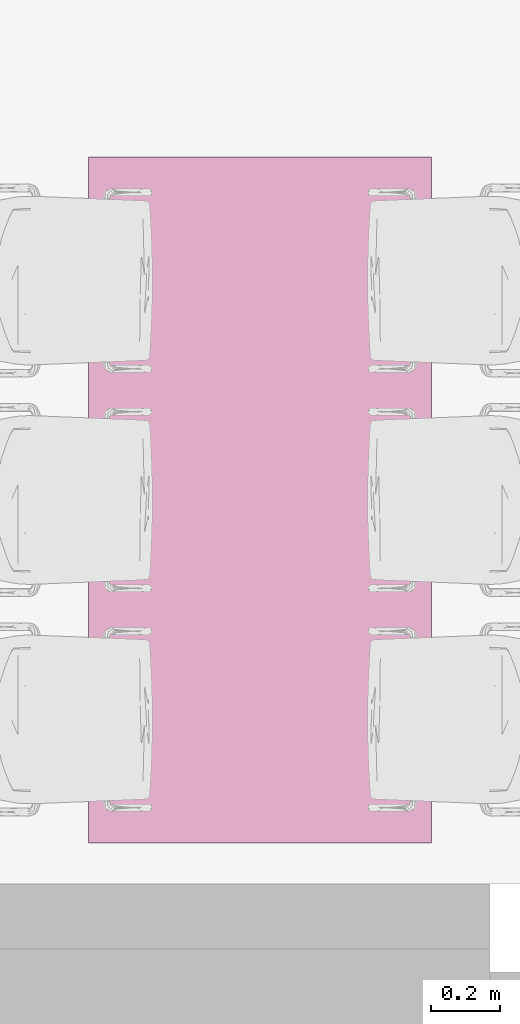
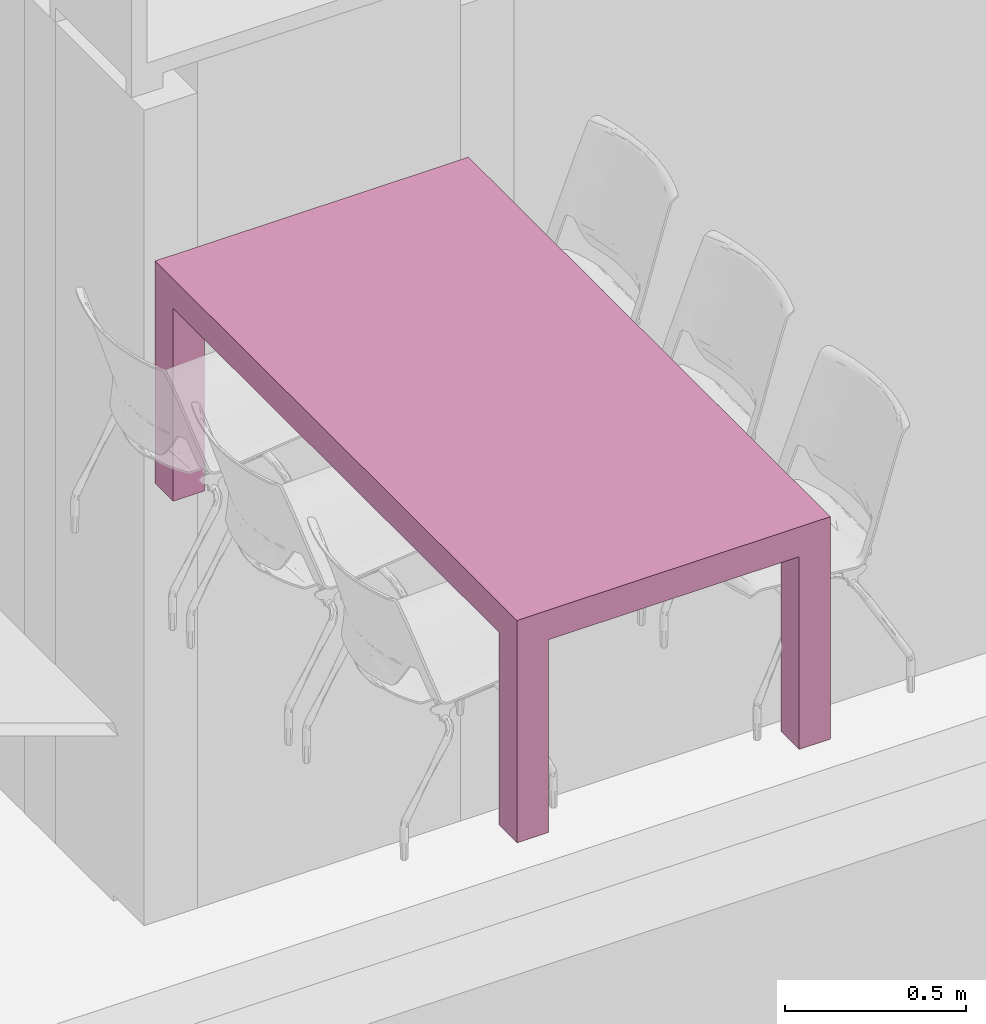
# One storey, part 24 of 68: 1 furnishing.
"""IFC2X3 building model written with IfcOpenShell, lengths in millimetres."""

from ifc_helpers import new_model, entity, si_unit, converted_unit, direction, frame, origin, place, context, subcontext, project, spatial, faceted_brep, source, transform, mapped, material, type_object, type_shapes, element, save


model = new_model("IFC2X3")

# Units and contexts
model_context = context("Model", 3, precision=0.01, world=origin(), true_north=direction((6.123233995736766e-17, 1.0)))
plan_context = context("Plan", 3, precision=0.01, world=origin(), true_north=direction((6.123233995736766e-17, 1.0)))
body_context = subcontext(model_context, "Body", "Model", "MODEL_VIEW")
ifc_project = project(units=[si_unit("LENGTHUNIT", "METRE", prefix="MILLI"), converted_unit("PLANEANGLEUNIT", "DEGREE", entity("IfcPlaneAngleMeasure", 0.017453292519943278), si_unit("PLANEANGLEUNIT", "RADIAN"), dimensions=[0, 0, 0, 0, 0, 0, 0]), si_unit("AREAUNIT", "SQUARE_METRE")], contexts=[model_context, plan_context])

# Site, building, storey, space
site_placement = place(None, origin())
site = spatial("IfcSite", under=ifc_project, at=site_placement, Name="Default", CompositionType="ELEMENT")
building_placement = place(site_placement, origin())
building = spatial("IfcBuilding", under=site, at=building_placement, CompositionType="ELEMENT")
storey_placement = place(building_placement, frame((0.0, 0.0, 6295.0)))
storey = spatial("IfcBuildingStorey", under=building, at=storey_placement, Name="3K", CompositionType="ELEMENT", Elevation=6294.999999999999)
space_placement = place(storey_placement, origin())
space = spatial("IfcSpace", under=storey, at=space_placement, Name="3-8.2", CompositionType="ELEMENT", InteriorOrExteriorSpace="INTERNAL")

# Furnishing
ifc_material = material(Name="<Unnamed>")
furniture_type = type_object("IfcFurnitureType", Name="HR_Furniture_Table_Generic_v2016-02-11:2000x1000", AssemblyPlace="NOTDEFINED", material=ifc_material)
shared_shape = source(origin(), body_context, "Body", "Brep", [
    faceted_brep([(-500.0, -900.0, 0.0), (-400.0, -900.0, 0.0), (-400.0, -1000.0, 0.0), (-500.0, -1000.0, 0.0), (-400.0, 1000.0, 0.0), (-500.0, 1000.0, 0.0), (-500.0, 1000.0, 750.0), (500.0, 1000.0, 750.0), (500.0, 1000.0, 0.0), (400.0, 1000.0, 0.0), (400.0, 1000.0, 650.0), (-400.0, 1000.0, 650.0), (-500.0, 900.0, 0.0), (-500.0, 900.0, 650.0), (-500.0, -900.0, 650.0), (-500.0, -1000.0, 750.0), (-400.0, 900.0, 0.0), (-400.0, 900.0, 650.0), (400.0, 900.0, 0.0), (400.0, 900.0, 650.0), (500.0, 900.0, 0.0), (500.0, 900.0, 650.0), (500.0, -1000.0, 750.0), (500.0, -1000.0, 0.0), (500.0, -900.0, 0.0), (500.0, -900.0, 650.0), (400.0, -900.0, 0.0), (400.0, -900.0, 650.0), (400.0, -1000.0, 0.0), (400.0, -1000.0, 650.0), (-400.0, -1000.0, 650.0), (-400.0, -900.0, 650.0)], [[[0, 1, 2, 3]], [[4, 5, 6, 7, 8, 9, 10, 11]], [[6, 5, 12, 13, 14, 0, 3, 15]], [[12, 16, 17, 13]], [[16, 4, 11, 17]], [[9, 18, 19, 10]], [[18, 20, 21, 19]], [[20, 8, 7, 22, 23, 24, 25, 21]], [[24, 26, 27, 25]], [[26, 28, 29, 27]], [[28, 23, 22, 15, 3, 2, 30, 29]], [[2, 1, 31, 30]], [[1, 0, 14, 31]], [[7, 6, 15, 22]], [[11, 10, 19, 21, 25, 27, 29, 30, 31, 14, 13, 17]], [[4, 16, 12, 5]], [[8, 20, 18, 9]], [[24, 23, 28, 26]]]),
])
type_shapes(furniture_type, [shared_shape])
furnishing_placement = place(space_placement, frame((7718.545584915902, 1120.0, 3170.000076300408)))
element("IfcFurnishingElement", 1, at=furnishing_placement, inside=space, type_object=furniture_type, material=ifc_material, Name="HR_Furniture_Table_Generic_v2016-02-11:2000x1000", ObjectType="HR_Furniture_Table_Generic_v2016-02-11:2000x1000", context=body_context, shape_type="MappedRepresentation", body=[
    mapped(shared_shape, transform((0.0, 0.0, 0.0), scale=1.0)),
])

save(model, "model.ifc")
